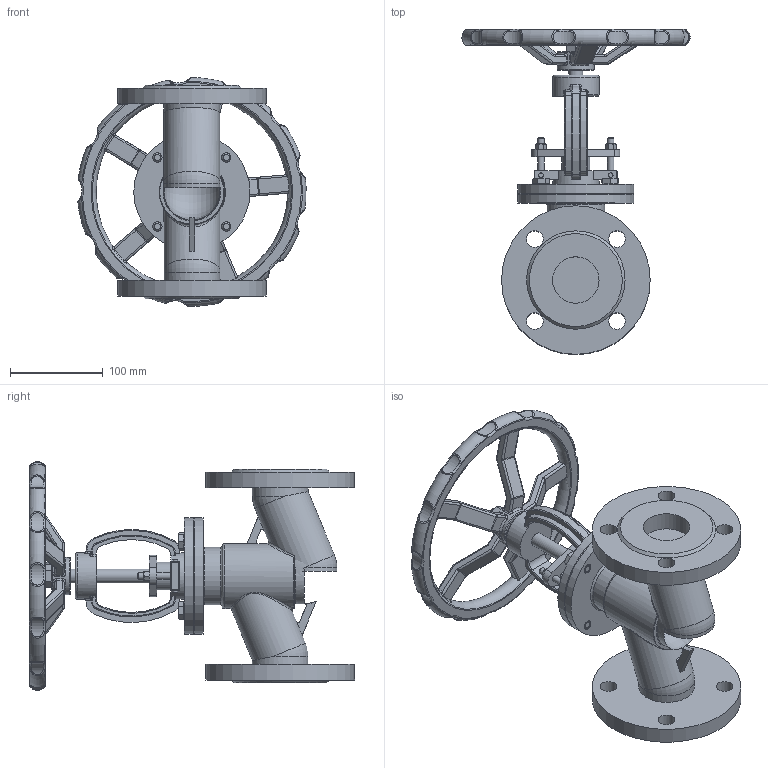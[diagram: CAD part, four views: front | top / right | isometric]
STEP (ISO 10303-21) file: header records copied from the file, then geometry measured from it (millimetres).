
FILE_DESCRIPTION(('STEP AP203'), '1');
FILE_NAME('VSO3131M-F-S 孰囡囗 玎镱痦 DN.ru 捏50 畜16', '2026-04-15T21:00:58', ('R2D2'), (''), 'C3D Converter', 'C3D Toolkit', '');
FILE_SCHEMA(('CONFIG_CONTROL_DESIGN'));
Length unit declared in the file: millimetre
Products named in the file (1): VSO3131M-F-S
Bounding box: 245.66 x 350 x 246.28 mm (x, y, z)
Volume: 2129375.1 mm3; surface area: 309849.1 mm2
Topology: 1 solids, 1 shells, 1002 faces, 2399 edges, 1429 vertices
Faces by surface type: plane 292, cylinder 217, torus 149, extrusion 125, bspline 76, sphere 72, cone 71
Full cylindrical faces by diameter (mm): 5 x4, 7 x4, 10 x4, 15 x3, 16 x4, 18 x9, 30 x1, 40 x1, 50 x4, 60 x5, 62 x1, 70 x1, 125 x2, 160 x2
Entity records: 65637 total; most frequent: CARTESIAN_POINT 35781, ORIENTED_EDGE 4602, DIRECTION 4213, EDGE_CURVE 2301, AXIS2_PLACEMENT_3D 1675, VERTEX_POINT 1421, EDGE_LOOP 1154, FACE_BOUND 1047
